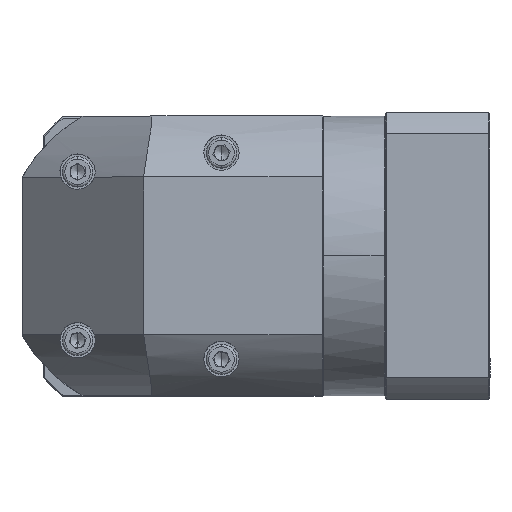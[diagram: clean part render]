
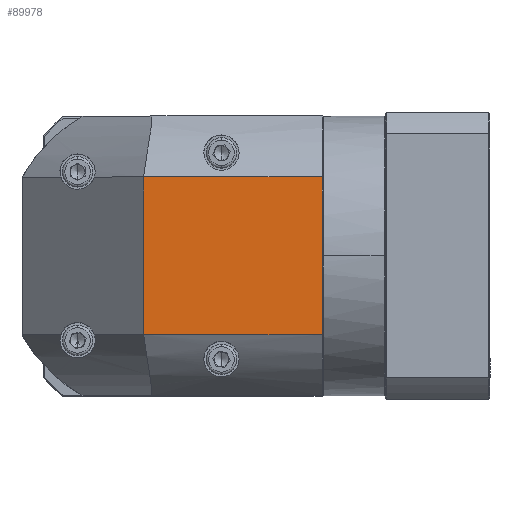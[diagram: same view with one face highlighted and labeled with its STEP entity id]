
A CAD part, top view. The second image highlights one B-rep face of the part: STEP entity #89978.
In plain terms, the highlighted planar face has unit normal (0, 0, 1).
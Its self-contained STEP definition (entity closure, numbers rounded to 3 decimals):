
#3006 = DIRECTION ( 'NONE',  ( -1., 0., 0. ) ) ;
#6041 = CARTESIAN_POINT ( 'NONE',  ( 46.153, 143.176, 93.924 ) ) ;
#12803 = ORIENTED_EDGE ( 'NONE', *, *, #36974, .F. ) ;
#31425 = CARTESIAN_POINT ( 'NONE',  ( -3.847, 118.076, 93.924 ) ) ;
#32181 = VECTOR ( 'NONE', #84371, 1000. ) ;
#35490 = LINE ( 'NONE', #31425, #32181 ) ;
#36974 = EDGE_CURVE ( 'NONE', #53981, #106321, #126849, .T. ) ;
#41445 = EDGE_CURVE ( 'NONE', #106321, #95447, #121271, .T. ) ;
#45447 = DIRECTION ( 'NONE',  ( 0., 0., -1. ) ) ;
#46285 = CARTESIAN_POINT ( 'NONE',  ( -3.847, 53.276, 93.924 ) ) ;
#46836 = DIRECTION ( 'NONE',  ( 0., -1., 0. ) ) ;
#47071 = LINE ( 'NONE', #124914, #121736 ) ;
#47952 = EDGE_CURVE ( 'NONE', #95447, #64832, #35490, .T. ) ;
#52227 = EDGE_LOOP ( 'NONE', ( #69650, #92123, #12803, #110529 ) ) ;
#52894 = CARTESIAN_POINT ( 'NONE',  ( 119.553, 53.276, 93.924 ) ) ;
#53981 = VERTEX_POINT ( 'NONE', #52894 ) ;
#55980 = CARTESIAN_POINT ( 'NONE',  ( 46.153, 118.076, 93.924 ) ) ;
#59286 = CARTESIAN_POINT ( 'NONE',  ( 119.553, 118.076, 93.924 ) ) ;
#64832 = VERTEX_POINT ( 'NONE', #59286 ) ;
#65488 = VECTOR ( 'NONE', #3006, 1000. ) ;
#69650 = ORIENTED_EDGE ( 'NONE', *, *, #47952, .F. ) ;
#70209 = DIRECTION ( 'NONE',  ( 0., 1., 0. ) ) ;
#74874 = VECTOR ( 'NONE', #70209, 1000. ) ;
#84371 = DIRECTION ( 'NONE',  ( 1., 0., 0. ) ) ;
#89043 = CARTESIAN_POINT ( 'NONE',  ( 53.653, 85.676, 93.924 ) ) ;
#89978 = ADVANCED_FACE ( 'NONE', ( #136768 ), #100648, .F. ) ;
#92123 = ORIENTED_EDGE ( 'NONE', *, *, #41445, .F. ) ;
#93241 = EDGE_CURVE ( 'NONE', #64832, #53981, #47071, .T. ) ;
#93320 = AXIS2_PLACEMENT_3D ( 'NONE', #89043, #45447, #46836 ) ;
#95447 = VERTEX_POINT ( 'NONE', #55980 ) ;
#100648 = PLANE ( 'NONE',  #93320 ) ;
#106321 = VERTEX_POINT ( 'NONE', #136394 ) ;
#110529 = ORIENTED_EDGE ( 'NONE', *, *, #93241, .F. ) ;
#116131 = DIRECTION ( 'NONE',  ( 0., -1., 0. ) ) ;
#121271 = LINE ( 'NONE', #6041, #74874 ) ;
#121736 = VECTOR ( 'NONE', #116131, 1000. ) ;
#124914 = CARTESIAN_POINT ( 'NONE',  ( 119.553, 143.176, 93.924 ) ) ;
#126849 = LINE ( 'NONE', #46285, #65488 ) ;
#136394 = CARTESIAN_POINT ( 'NONE',  ( 46.153, 53.276, 93.924 ) ) ;
#136768 = FACE_OUTER_BOUND ( 'NONE', #52227, .T. ) ;
